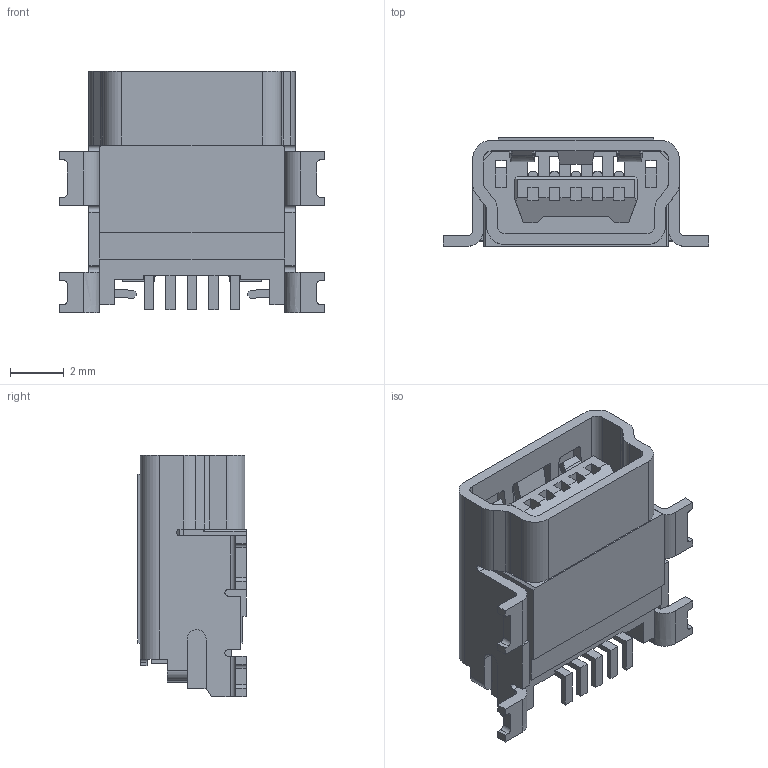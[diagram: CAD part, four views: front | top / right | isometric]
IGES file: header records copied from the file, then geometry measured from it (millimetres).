
Start section:  PTC IGES file: 548190572.igs
Global section: file name: 548190572.igs; native system: Pro/ENGINEER by Parametric Technology Corporation; preprocessor: 2003451; author: gga; organization: Unknown; date: 080409.121227; units: millimetre
Bounding box: 9.9 x 4.05 x 9 mm (x, y, z)
Volume: 126.8 mm3; surface area: 638 mm2
Topology: 1 solids, 1 shells, 385 faces, 1156 edges, 762 vertices
Faces by surface type: bspline 307, revolution 78
